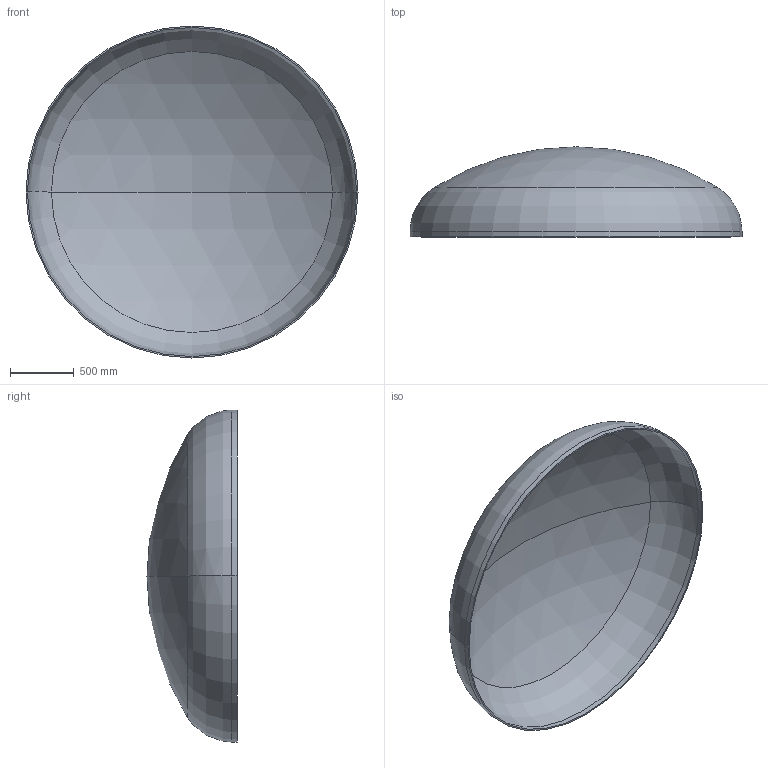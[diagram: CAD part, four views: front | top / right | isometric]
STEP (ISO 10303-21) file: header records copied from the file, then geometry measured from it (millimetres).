
FILE_DESCRIPTION (( 'STEP AP203' ), '1' );
FILE_NAME ('DIN 28013 Korbbogenform_-_Boden DIN 28013 - 2600 x 40 - I - s=11.step', '2016-07-01T15:53:28', ( '' ), ( '' ), 'SwSTEP 2.0', 'SolidWorks 2013', '' );
FILE_SCHEMA (( 'CONFIG_CONTROL_DESIGN' ));
Length unit declared in the file: millimetre
Products named in the file (1): DIN 28013 Korbbogenform_-_Boden DIN 28013 - 2600 x 40 - I - s=11
Bounding box: 2600 x 705.49 x 2600 mm (x, y, z)
Volume: 84002014.5 mm3; surface area: 15362810.3 mm2
Topology: 1 solids, 1 shells, 13 faces, 24 edges, 14 vertices
Faces by surface type: torus 4, cylinder 4, sphere 4, plane 1
Entity records: 407 total; most frequent: DIRECTION 72, CARTESIAN_POINT 52, ORIENTED_EDGE 48, AXIS2_PLACEMENT_3D 34, EDGE_CURVE 24, CIRCLE 20, VERTEX_POINT 14, EDGE_LOOP 14
